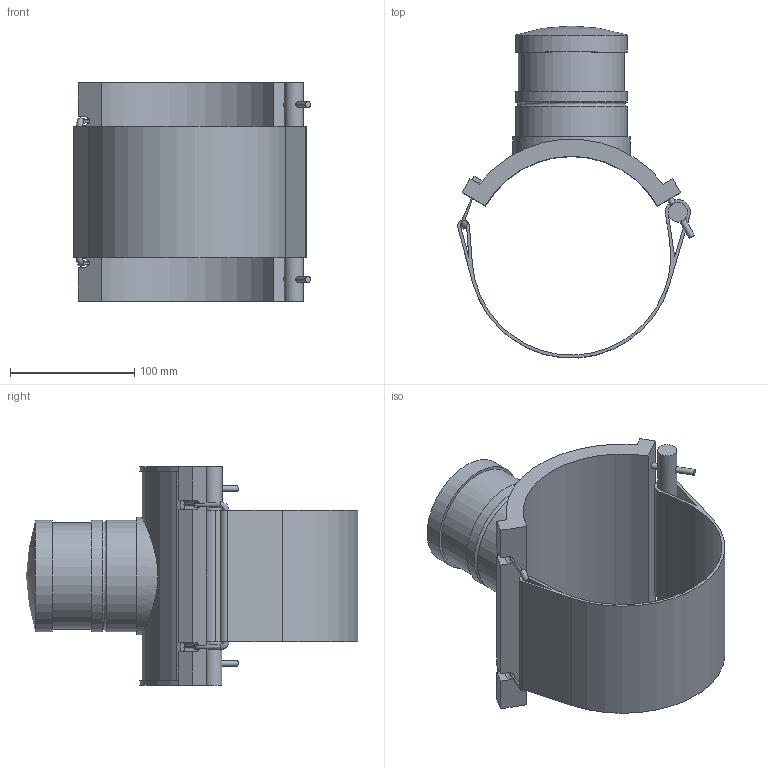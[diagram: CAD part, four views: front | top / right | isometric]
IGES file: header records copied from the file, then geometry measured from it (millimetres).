
Global section: file name: 496804160025.ipt; native system: Autodesk Inventor 2015; preprocessor: unknown; author: KIM; date: 20171106.094409; units: millimetre
Bounding box: 190.68 x 267.18 x 176 mm (x, y, z)
Volume: 1148602.1 mm3; surface area: 219373.7 mm2
Topology: 2 solids, 2 shells, 74 faces, 191 edges, 124 vertices
Faces by surface type: plane 43, cylinder 21, revolution 9, sphere 1
Full cylindrical faces by diameter (mm): 4.8 x6, 15.508 x1, 85.5 x1, 90 x3, 94.5 x1
